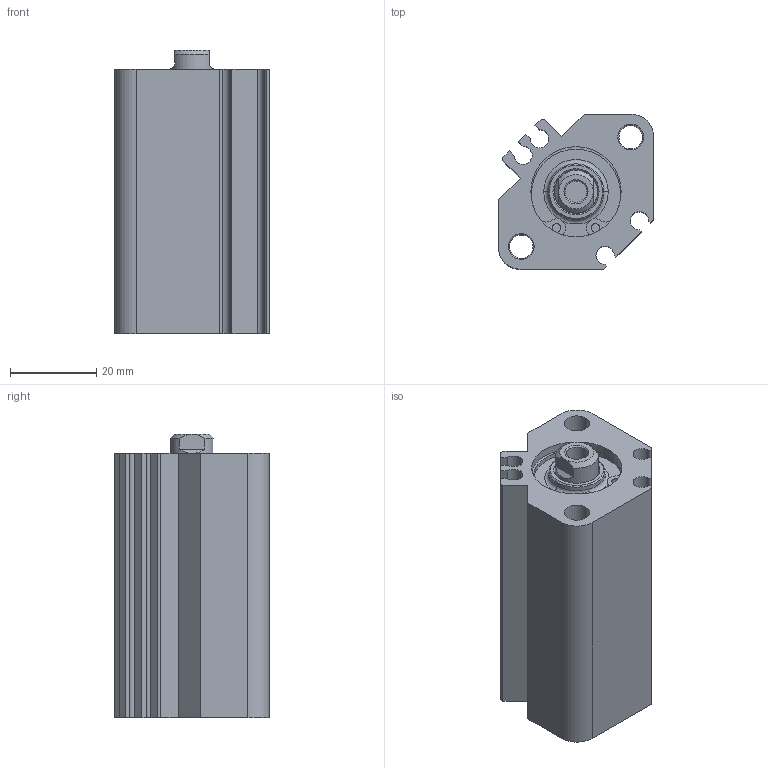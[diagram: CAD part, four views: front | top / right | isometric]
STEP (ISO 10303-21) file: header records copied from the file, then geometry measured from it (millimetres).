
FILE_DESCRIPTION (( 'STEP AP214' ), '1' );
FILE_NAME ('CDQ2A20-30DZ.step.step', '2021-07-21T17:32:50', ( '' ), ( '' ), 'SwSTEP 2.0', 'SolidWorks 2021', '' );
FILE_SCHEMA (( 'AUTOMOTIVE_DESIGN' ));
Length unit declared in the file: millimetre
Products named in the file (4): CDQ2A20-30DZ.step_CQ22031Rods_20; CDQ2A20-30DZ.step_CQ2 SnapRing_20; CDQ2A20-30DZ.step_CQ2Tube_20D; CDQ2A20-30DZ.step
Assembly tree (3 placements, depth 2):
  CDQ2A20-30DZ.step
    CDQ2A20-30DZ.step_CQ2Tube_20D
    CDQ2A20-30DZ.step_CQ22031Rods_20
    CDQ2A20-30DZ.step_CQ2 SnapRing_20
Bounding box: 36 x 36 x 66 mm (x, y, z)
Volume: 52328 mm3; surface area: 22617.3 mm2
Topology: 3 solids, 3 shells, 144 faces, 349 edges, 220 vertices
Faces by surface type: cylinder 71, plane 51, cone 20, torus 2
Entity records: 5017 total; most frequent: DIRECTION 795, CARTESIAN_POINT 765, ORIENTED_EDGE 690, EDGE_CURVE 345, AXIS2_PLACEMENT_3D 310, VERTEX_POINT 220, LINE 175, VECTOR 175
